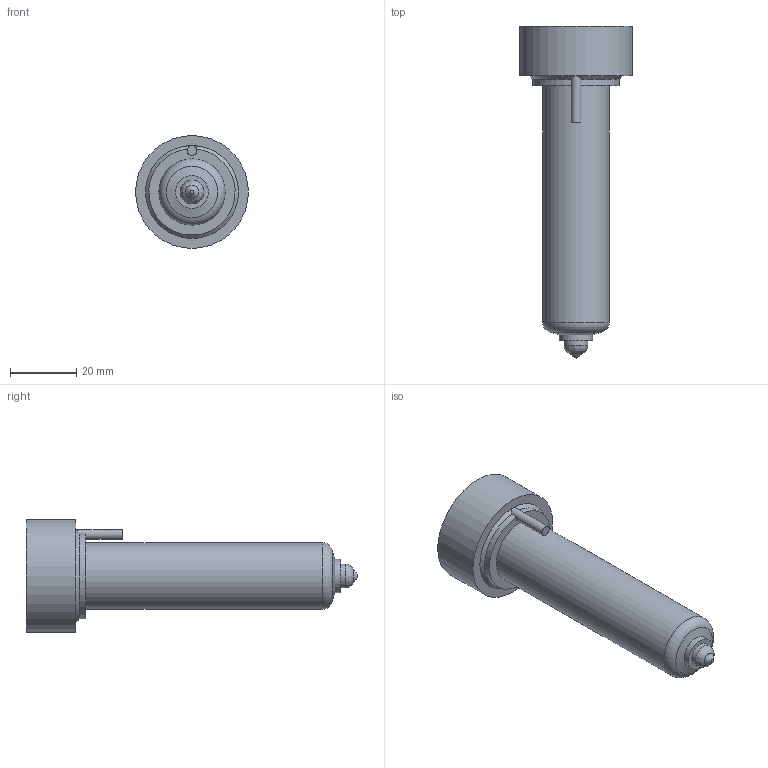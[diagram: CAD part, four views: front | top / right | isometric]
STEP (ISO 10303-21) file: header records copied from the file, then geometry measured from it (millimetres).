
FILE_DESCRIPTION(('STEP AP214'),'1');
FILE_NAME('//Server-yudoeu/YUDO-EU/Production YUDO EU/CAD-Gen/Blocos/Blocos 2D/Ficheiros 3D/YUEN/YEM12CS100/YEM12CS100_1.2_cut-out.step','2010-07-09T10:39:31',(' '),(' '),'Spatial InterOp 3D',' ',' ');
FILE_SCHEMA(('automotive_design'));
Length unit declared in the file: millimetre
Products named in the file (1): nozzlearea
Bounding box: 34 x 100 x 34 mm (x, y, z)
Volume: 38945.4 mm3; surface area: 8437.9 mm2
Topology: 1 solids, 1 shells, 17 faces, 31 edges, 19 vertices
Faces by surface type: cylinder 6, plane 6, cone 3, bspline 1, torus 1
Full cylindrical faces by diameter (mm): 3 x1, 7.2 x1, 10 x1, 20 x1, 34 x1
Entity records: 551 total; most frequent: CARTESIAN_POINT 104, DIRECTION 68, ORIENTED_EDGE 40, AXIS2_PLACEMENT_3D 33, EDGE_LOOP 29, FACE_OUTER_BOUND 24, EDGE_CURVE 20, STYLED_ITEM 17
